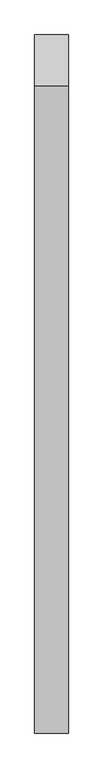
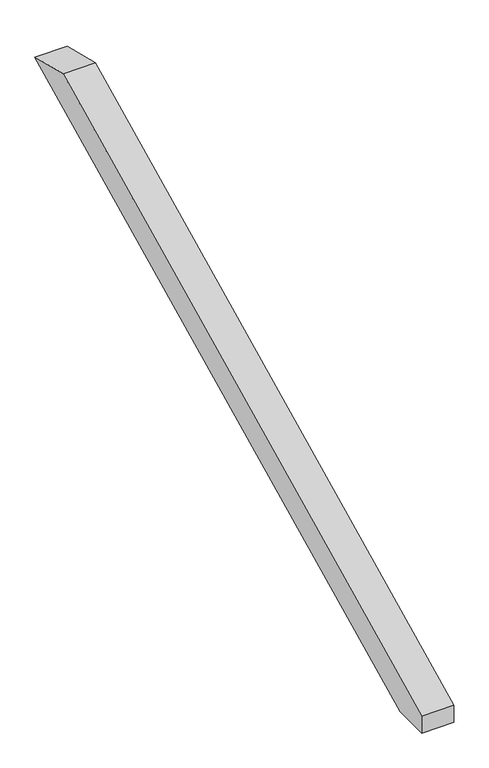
"""IFC4 building model written with IfcOpenShell, lengths in millimetres: proxy geometry, Modelos genéricos 155 : Modelos genéricos 16."""

from ifc_helpers import new_model, si_unit, frame, origin, place, context, project, spatial, polyline, outline, extrude, source, transform, mapped, element, save


def generic_models_224d4fe7(model_context):
    return source(origin(), model_context, "Body", "SweptSolid", [
        extrude(outline(polyline([(3173.8548825, 3756.8218964), (3264.4256133, 3734.240077), (2087.0589775, 3160.0), (2018.6238165, 3160.0), (2018.6238165, 3193.3780582), (3173.8548825, 3756.8218964)])), frame((12873.4472467, 0.0, 0.0), z_axis=(1.0, 0.0, 0.0), x_axis=(0.0, 1.0, 0.0)), (0.0, 0.0, 1.0), 60.0),
    ])


if __name__ == "__main__":
    model = new_model("IFC4")
    model_context = context("Model", 3, world=origin())
    ifc_project = project(units=[si_unit("LENGTHUNIT", "METRE", prefix="MILLI")], contexts=[model_context])
    site = spatial("IfcSite", under=ifc_project)
    building = spatial("IfcBuilding", under=site)
    placement = place(None, origin())
    generic_models_shape = generic_models_224d4fe7(model_context)
    element("IfcBuildingElementProxy", 1, Name="Modelos genéricos 155 : Modelos genéricos 16", ObjectType="Modelos genéricos 155 : Modelos genéricos 16", at=placement, inside=building, context=model_context, shape_type="MappedRepresentation", body=[
        mapped(generic_models_shape, transform((0.0, 0.0, 0.0), x_axis=(1.0, 0.0, 0.0), y_axis=(0.0, 1.0, 0.0), z_axis=(0.0, 0.0, 1.0))),
    ])
    save(model, "model.ifc")
